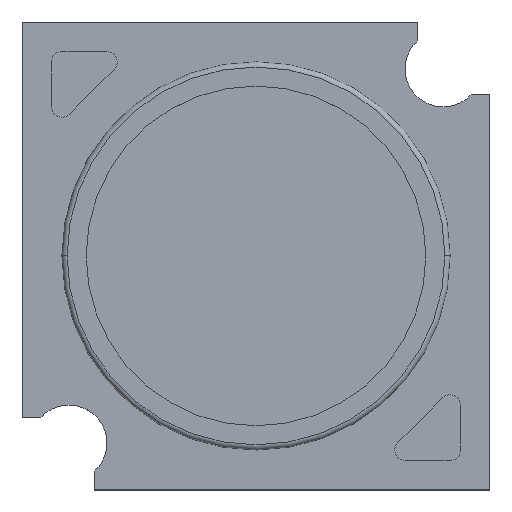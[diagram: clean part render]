
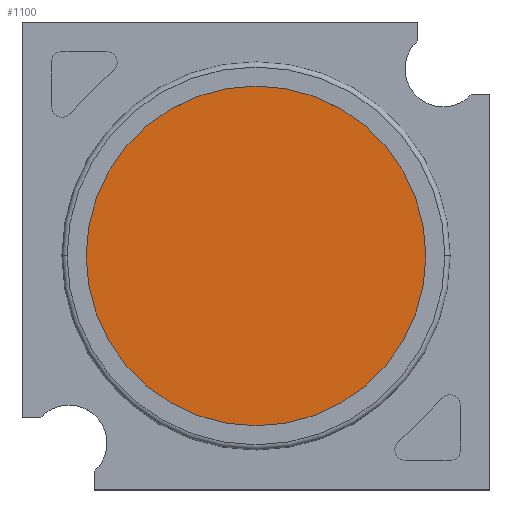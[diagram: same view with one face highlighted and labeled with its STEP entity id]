
A CAD part, top view. The second image highlights one B-rep face of the part: STEP entity #1100.
In plain terms, the highlighted planar face has unit normal (0, 0, 1).
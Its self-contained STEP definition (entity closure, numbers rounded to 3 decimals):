
#392=CARTESIAN_POINT('',(0.,0.,1.49));
#393=DIRECTION('',(0.,0.,1.));
#394=DIRECTION('',(1.,0.,0.));
#395=AXIS2_PLACEMENT_3D('',#392,#393,#394);
#397=CARTESIAN_POINT('',(0.,0.,1.49));
#398=DIRECTION('',(0.,0.,1.));
#399=DIRECTION('',(-1.,0.,0.));
#400=AXIS2_PLACEMENT_3D('',#397,#398,#399);
#522=CARTESIAN_POINT('',(4.9,0.,1.49));
#523=CARTESIAN_POINT('',(-4.9,0.,1.49));
#524=VERTEX_POINT('',#522);
#525=VERTEX_POINT('',#523);
#1091=CARTESIAN_POINT('',(0.,0.,1.49));
#1092=DIRECTION('',(0.,0.,1.));
#1093=DIRECTION('',(1.,0.,0.));
#1094=AXIS2_PLACEMENT_3D('',#1091,#1092,#1093);
#1095=PLANE('',#1094);
#1096=ORIENTED_EDGE('',*,*,#1071,.F.);
#1097=ORIENTED_EDGE('',*,*,#1085,.F.);
#1098=EDGE_LOOP('',(#1096,#1097));
#1099=FACE_OUTER_BOUND('',#1098,.F.);
#1100=ADVANCED_FACE('',(#1099),#1095,.T.);
#396=CIRCLE('',#395,4.9);
#401=CIRCLE('',#400,4.9);
#1071=EDGE_CURVE('',#524,#525,#396,.T.);
#1085=EDGE_CURVE('',#525,#524,#401,.T.);
